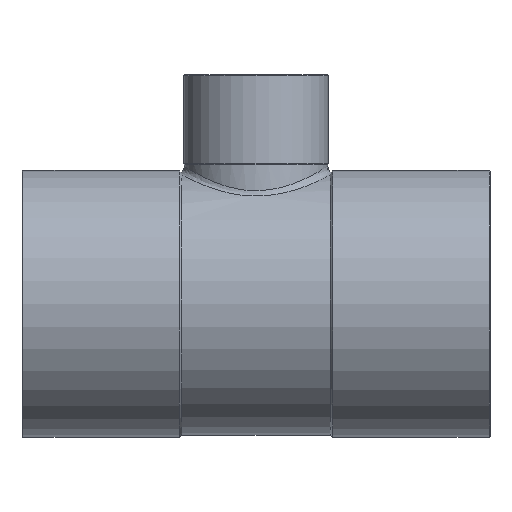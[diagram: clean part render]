
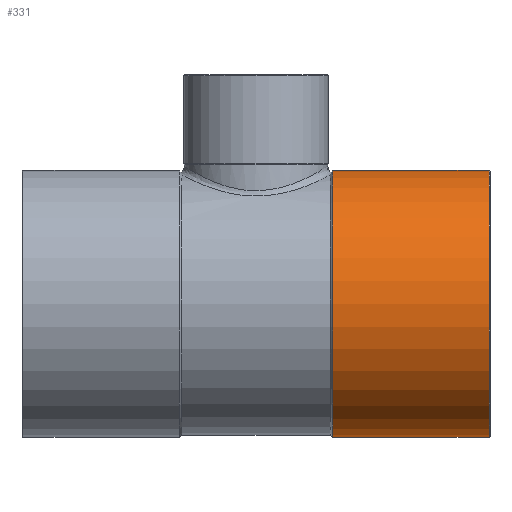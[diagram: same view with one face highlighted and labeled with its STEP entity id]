
A CAD part, top view. The second image highlights one B-rep face of the part: STEP entity #331.
In plain terms, the highlighted cylindrical face has radius 28.525 mm (diameter 57.05 mm), a partial arc.
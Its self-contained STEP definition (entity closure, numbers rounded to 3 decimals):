
#290=CARTESIAN_POINT('',(33.2,0.0,0.0));
#291=DIRECTION('',(1.0,0.0,0.0));
#292=DIRECTION('',(0.0,1.0,0.0));
#293=AXIS2_PLACEMENT_3D('',#290,#291,#292);
#294=CYLINDRICAL_SURFACE('',#293,28.525);
#295=CARTESIAN_POINT('',(16.399,28.525,0.0));
#296=VERTEX_POINT('',#295);
#297=CARTESIAN_POINT('',(49.8,28.525,0.));
#298=VERTEX_POINT('',#297);
#299=CARTESIAN_POINT('',(16.399,28.525,0.0));
#300=DIRECTION('',(1.0,0.0,0.0));
#301=VECTOR('',#300,33.401);
#302=LINE('',#299,#301);
#303=EDGE_CURVE('',#296,#298,#302,.T.);
#304=ORIENTED_EDGE('',*,*,#303,.F.);
#305=CARTESIAN_POINT('',(16.399,-28.525,0.));
#306=VERTEX_POINT('',#305);
#307=CARTESIAN_POINT('',(16.399,0.0,0.0));
#308=DIRECTION('',(1.0,0.0,0.0));
#309=DIRECTION('',(0.0,1.0,0.0));
#310=AXIS2_PLACEMENT_3D('',#307,#308,#309);
#311=CIRCLE('',#310,28.525);
#312=EDGE_CURVE('',#296,#306,#311,.T.);
#313=ORIENTED_EDGE('',*,*,#312,.T.);
#314=CARTESIAN_POINT('',(49.8,-28.525,0.));
#315=VERTEX_POINT('',#314);
#316=CARTESIAN_POINT('',(49.8,-28.525,0.));
#317=DIRECTION('',(-1.0,0.0,0.0));
#318=VECTOR('',#317,33.401);
#319=LINE('',#316,#318);
#320=EDGE_CURVE('',#315,#306,#319,.T.);
#321=ORIENTED_EDGE('',*,*,#320,.F.);
#322=CARTESIAN_POINT('',(49.8,0.0,0.0));
#323=DIRECTION('',(1.0,0.0,0.0));
#324=DIRECTION('',(0.0,-1.0,0.0));
#325=AXIS2_PLACEMENT_3D('',#322,#323,#324);
#326=CIRCLE('',#325,28.525);
#327=EDGE_CURVE('',#298,#315,#326,.T.);
#328=ORIENTED_EDGE('',*,*,#327,.F.);
#329=EDGE_LOOP('',(#304,#313,#321,#328));
#330=FACE_OUTER_BOUND('',#329,.T.);
#331=ADVANCED_FACE('',(#330),#294,.T.);
